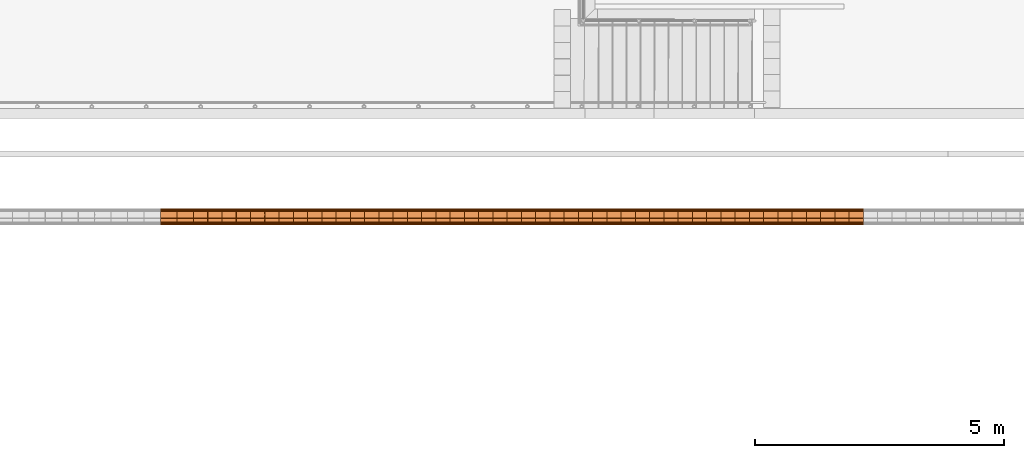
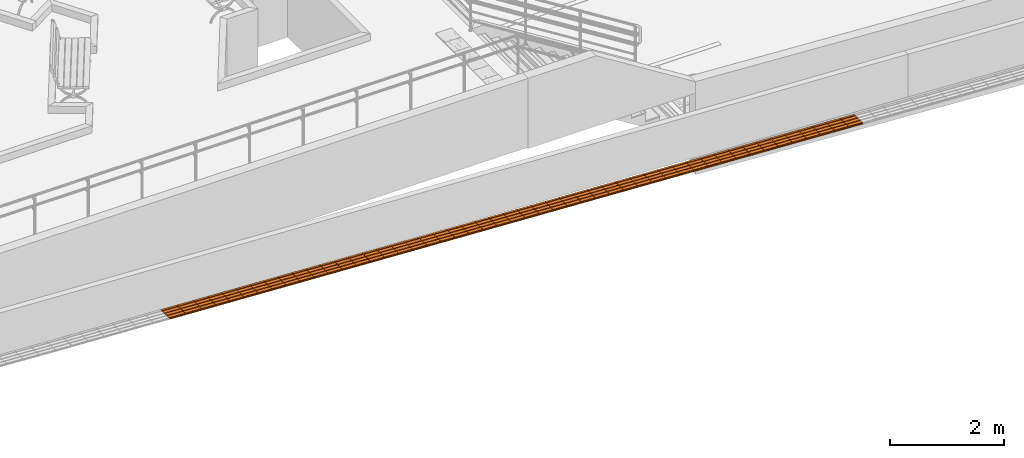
# One storey, part 186 of 237: 49 proxies.
"""IFC2X3 building model written with IfcOpenShell, lengths in millimetres."""

from ifc_helpers import new_model, entity, si_unit, converted_unit, derived_unit, money_unit, direction, frame, origin_with_axes, place, context, subcontext, project, spatial, open_shell, surface_model, source, transform, mapped, type_object, element, save


model = new_model("IFC2X3")

# Units and contexts
model_context = context("Model", 3, precision=0.01, world=origin_with_axes(), true_north=direction((0.0, 1.0)))
body_context = subcontext(model_context, "Body", "Model", "MODEL_VIEW")
ifc_project = project(units=[si_unit("LENGTHUNIT", "METRE", prefix="MILLI"), si_unit("AREAUNIT", "SQUARE_METRE"), si_unit("VOLUMEUNIT", "CUBIC_METRE"), converted_unit("PLANEANGLEUNIT", "DEGREE", entity("IfcPlaneAngleMeasure", 0.0174532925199), si_unit("PLANEANGLEUNIT", "RADIAN"), dimensions=[0, 0, 0, 0, 0, 0, 0]), money_unit("USD"), converted_unit("TIMEUNIT", "Year", entity("IfcTimeMeasure", 31556926.0), si_unit("TIMEUNIT", "SECOND"), dimensions=[0, 0, 1, 0, 0, 0, 0]), si_unit("MASSUNIT", "GRAM", prefix="KILO"), si_unit("THERMODYNAMICTEMPERATUREUNIT", "DEGREE_CELSIUS"), si_unit("LUMINOUSINTENSITYUNIT", "LUMEN"), si_unit("ENERGYUNIT", "JOULE", prefix="MEGA"), derived_unit("THERMALCONDUCTANCEUNIT", [(si_unit("POWERUNIT", "WATT"), 1), (si_unit("LENGTHUNIT", "METRE"), -1), (si_unit("THERMODYNAMICTEMPERATUREUNIT", "KELVIN"), -1)]), derived_unit("SPECIFICHEATCAPACITYUNIT", [(si_unit("ENERGYUNIT", "JOULE"), 1), (si_unit("MASSUNIT", "GRAM", prefix="KILO"), -1), (si_unit("THERMODYNAMICTEMPERATUREUNIT", "KELVIN"), -1)]), derived_unit("MASSDENSITYUNIT", [(si_unit("MASSUNIT", "GRAM", prefix="KILO"), 1), (si_unit("VOLUMEUNIT", "CUBIC_METRE"), -1)])], contexts=[model_context])

# Site, building, storey
site_placement = place(None, origin_with_axes())
site = spatial("IfcSite", under=ifc_project, at=site_placement, Name="Local", CompositionType="ELEMENT")
building_placement = place(site_placement, origin_with_axes())
building = spatial("IfcBuilding", under=site, at=building_placement, Name="Construção", CompositionType="ELEMENT")
storey_placement = place(building_placement, origin_with_axes())
storey = spatial("IfcBuildingStorey", under=building, at=storey_placement, Name="Pavimento Térreo", CompositionType="ELEMENT", Elevation=0.0)

# Proxies
building_element_proxy_type = type_object("IfcBuildingElementProxyType", Name="Piso Direcional 27", PredefinedType="NOTDEFINED")
shared_shape_1 = source(origin_with_axes(), body_context, "Body", "SurfaceModel", [
    surface_model("IfcShellBasedSurfaceModel", [(-0.210134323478, -47.258225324, 4.02303628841), (285.108160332, -47.258225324, 18.9260007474), (284.760415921, -41.665004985, 25.5835917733), (-0.557878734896, -41.665004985, 10.6806273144)], [open_shell([[[0, 1, 2, 3]]])]),
    surface_model("IfcShellBasedSurfaceModel", [(285.803649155, -153.529411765, 5.61081869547), (285.803649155, 176.470588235, 5.61081869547), (285.108160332, 176.470588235, 18.9260007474), (285.108160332, 154.097706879, 18.9260007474), (284.760415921, 148.50448654, 25.5835917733), (284.760415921, 126.131605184, 25.5835917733), (285.108160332, 120.538384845, 18.9260007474), (285.108160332, 70.1994017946, 18.9260007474), (284.760415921, 64.6061814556, 25.5835917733), (284.760415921, 42.2333000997, 25.5835917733), (285.108160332, 36.6400797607, 18.9260007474), (285.108160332, -13.6989032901, 18.9260007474), (284.760415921, -19.2921236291, 25.5835917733), (284.760415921, -41.665004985, 25.5835917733), (285.108160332, -47.258225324, 18.9260007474), (285.108160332, -97.5972083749, 18.9260007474), (284.760415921, -103.190428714, 25.5835917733), (284.760415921, -125.56331007, 25.5835917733), (285.108160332, -131.156530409, 18.9260007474), (285.108160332, -153.529411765, 18.9260007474)], [open_shell([[[0, 1, 2, 3, 4, 5, 6, 7, 8, 9, 10, 11, 12, 13, 14, 15, 16, 17, 18, 19]]])]),
    surface_model("IfcShellBasedSurfaceModel", [(-0.557878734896, -19.2921236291, 10.6806273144), (284.760415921, -19.2921236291, 25.5835917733), (285.108160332, -13.6989032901, 18.9260007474), (-0.210134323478, -13.6989032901, 4.02303628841)], [open_shell([[[0, 1, 2, 3]]])]),
    surface_model("IfcShellBasedSurfaceModel", [(-0.557878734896, -103.190428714, 10.6806273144), (284.760415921, -103.190428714, 25.5835917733), (285.108160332, -97.5972083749, 18.9260007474), (-0.210134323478, -97.5972083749, 4.02303628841)], [open_shell([[[0, 1, 2, 3]]])]),
    surface_model("IfcShellBasedSurfaceModel", [(-0.557878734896, 64.6061814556, 10.6806273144), (284.760415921, 64.6061814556, 25.5835917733), (285.108160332, 70.1994017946, 18.9260007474), (-0.210134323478, 70.1994017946, 4.02303628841)], [open_shell([[[0, 1, 2, 3]]])]),
    surface_model("IfcShellBasedSurfaceModel", [(-0.210134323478, 36.6400797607, 4.02303628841), (285.108160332, 36.6400797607, 18.9260007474), (284.760415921, 42.2333000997, 25.5835917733), (-0.557878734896, 42.2333000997, 10.6806273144)], [open_shell([[[0, 1, 2, 3]]])]),
    surface_model("IfcShellBasedSurfaceModel", [(-0.210134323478, -131.156530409, 4.02303628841), (285.108160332, -131.156530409, 18.9260007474), (284.760415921, -125.56331007, 25.5835917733), (-0.557878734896, -125.56331007, 10.6806273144)], [open_shell([[[0, 1, 2, 3]]])]),
    surface_model("IfcShellBasedSurfaceModel", [(-0.210134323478, 176.470588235, 4.02303628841), (-0.210134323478, 154.097706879, 4.02303628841), (285.108160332, 154.097706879, 18.9260007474), (285.108160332, 176.470588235, 18.9260007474)], [open_shell([[[0, 1, 2, 3]]])]),
    surface_model("IfcShellBasedSurfaceModel", [(-0.210134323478, 120.538384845, 4.02303628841), (285.108160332, 120.538384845, 18.9260007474), (284.760415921, 126.131605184, 25.5835917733), (-0.557878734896, 126.131605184, 10.6806273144)], [open_shell([[[0, 1, 2, 3]]])]),
    surface_model("IfcShellBasedSurfaceModel", [(-0.557878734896, 148.50448654, 10.6806273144), (284.760415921, 148.50448654, 25.5835917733), (285.108160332, 154.097706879, 18.9260007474), (-0.210134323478, 154.097706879, 4.02303628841)], [open_shell([[[0, 1, 2, 3]]])]),
    surface_model("IfcShellBasedSurfaceModel", [(-0.210134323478, 36.6400797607, 4.02303628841), (-0.210134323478, -13.6989032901, 4.02303628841), (285.108160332, -13.6989032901, 18.9260007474), (285.108160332, 36.6400797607, 18.9260007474)], [open_shell([[[0, 1, 2, 3]]])]),
    surface_model("IfcShellBasedSurfaceModel", [(-0.210134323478, 120.538384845, 4.02303628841), (-0.210134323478, 70.1994017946, 4.02303628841), (285.108160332, 70.1994017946, 18.9260007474), (285.108160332, 120.538384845, 18.9260007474)], [open_shell([[[0, 1, 2, 3]]])]),
    surface_model("IfcShellBasedSurfaceModel", [(-0.557878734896, 148.50448654, 10.6806273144), (-0.557878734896, 126.131605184, 10.6806273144), (284.760415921, 126.131605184, 25.5835917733), (284.760415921, 148.50448654, 25.5835917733)], [open_shell([[[0, 1, 2, 3]]])]),
    surface_model("IfcShellBasedSurfaceModel", [(-0.210134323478, 120.538384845, 4.02303628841), (-0.557878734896, 126.131605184, 10.6806273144), (-0.557878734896, 148.50448654, 10.6806273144), (-0.210134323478, 154.097706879, 4.02303628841), (-0.210134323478, 176.470588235, 4.02303628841), (0.48535449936, 176.470588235, -9.29214576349), (0.48535449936, -153.529411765, -9.29214576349), (-0.210134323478, -153.529411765, 4.02303628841), (-0.210134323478, -131.156530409, 4.02303628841), (-0.557878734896, -125.56331007, 10.6806273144), (-0.557878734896, -103.190428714, 10.6806273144), (-0.210134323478, -97.5972083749, 4.02303628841), (-0.210134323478, -47.258225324, 4.02303628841), (-0.557878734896, -41.665004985, 10.6806273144), (-0.557878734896, -19.2921236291, 10.6806273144), (-0.210134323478, -13.6989032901, 4.02303628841), (-0.210134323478, 36.6400797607, 4.02303628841), (-0.557878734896, 42.2333000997, 10.6806273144), (-0.557878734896, 64.6061814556, 10.6806273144), (-0.210134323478, 70.1994017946, 4.02303628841)], [open_shell([[[0, 1, 2, 3, 4, 5, 6, 7, 8, 9, 10, 11, 12, 13, 14, 15, 16, 17, 18, 19]]])]),
    surface_model("IfcShellBasedSurfaceModel", [(284.760415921, -41.665004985, 25.5835917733), (284.760415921, -19.2921236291, 25.5835917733), (-0.557878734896, -19.2921236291, 10.6806273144), (-0.557878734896, -41.665004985, 10.6806273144)], [open_shell([[[0, 1, 2, 3]]])]),
    surface_model("IfcShellBasedSurfaceModel", [(-0.210134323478, -47.258225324, 4.02303628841), (-0.210134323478, -97.5972083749, 4.02303628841), (285.108160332, -97.5972083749, 18.9260007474), (285.108160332, -47.258225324, 18.9260007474)], [open_shell([[[0, 1, 2, 3]]])]),
    surface_model("IfcShellBasedSurfaceModel", [(284.760415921, 42.2333000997, 25.5835917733), (284.760415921, 64.6061814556, 25.5835917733), (-0.557878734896, 64.6061814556, 10.6806273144), (-0.557878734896, 42.2333000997, 10.6806273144)], [open_shell([[[0, 1, 2, 3]]])]),
    surface_model("IfcShellBasedSurfaceModel", [(284.760415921, -125.56331007, 25.5835917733), (284.760415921, -103.190428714, 25.5835917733), (-0.557878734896, -103.190428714, 10.6806273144), (-0.557878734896, -125.56331007, 10.6806273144)], [open_shell([[[0, 1, 2, 3]]])]),
    surface_model("IfcShellBasedSurfaceModel", [(285.803649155, 176.470588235, 5.61081869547), (0.48535449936, 176.470588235, -9.29214576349), (-0.210134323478, 176.470588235, 4.02303628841), (285.108160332, 176.470588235, 18.9260007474)], [open_shell([[[0, 1, 2, 3]]])]),
    surface_model("IfcShellBasedSurfaceModel", [(285.803649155, -153.529411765, 5.61081869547), (0.48535449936, -153.529411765, -9.29214576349), (0.48535449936, 176.470588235, -9.29214576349), (285.803649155, 176.470588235, 5.61081869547)], [open_shell([[[0, 1, 2, 3]]])]),
    surface_model("IfcShellBasedSurfaceModel", [(285.108160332, -153.529411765, 18.9260007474), (285.108160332, -131.156530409, 18.9260007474), (-0.210134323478, -131.156530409, 4.02303628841), (-0.210134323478, -153.529411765, 4.02303628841)], [open_shell([[[0, 1, 2, 3]]])]),
    surface_model("IfcShellBasedSurfaceModel", [(0.48535449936, -153.529411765, -9.29214576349), (285.803649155, -153.529411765, 5.61081869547), (285.108160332, -153.529411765, 18.9260007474), (-0.210134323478, -153.529411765, 4.02303628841)], [open_shell([[[0, 1, 2, 3]]])]),
])
for number, where, z_axis, x_axis, name in (
    (1, (92691.1017229, 10834.0941893, -5785.71380925), (0.0, 0.0, 1.0), (-1.0, 0.0, 0.0), "Objeto-0055"),
    (2, (94407.7134998, 10834.0941893, -5875.37719495), (0.0, 0.0, 1.0), (-1.0, 0.0, 0.0), "Objeto-0055"),
    (3, (93549.4076113, 10834.0941893, -5830.5455021), (0.0, 0.0, 1.0), (-1.0, 0.0, 0.0), "Objeto-0055"),
    (4, (95837.4396458, 10834.0941893, -5950.05574988), (0.0, 0.0, 1.0), (-1.0, 0.0, 0.0), "Objeto-0055"),
    (5, (95552.1213511, 10834.0941893, -5935.15278542), (0.0, 0.0, 1.0), (-1.0, 0.0, 0.0), "Objeto-0055"),
    (6, (98126.2553484, 10834.0941893, -6069.60693082), (0.0, 0.0, 1.0), (-1.0, 0.0, 0.0), "Objeto-0055"),
    (7, (97267.9494599, 10834.0941893, -6024.77523797), (0.0, 0.0, 1.0), (-1.0, 0.0, 0.0), "Objeto-0055"),
    (8, (96981.8474971, 10834.0941893, -6009.83134035), (0.0, 0.0, 1.0), (-1.0, 0.0, 0.0), "Objeto-0055"),
    (9, (102130.115492, 10834.0941893, -6278.73963114), (0.0, 0.0, 1.0), (-1.0, 0.0, 0.0), "Objeto-0055"),
    (10, (94693.8154626, 10834.0941893, -5890.32109257), (0.0, 0.0, 1.0), (-1.0, 0.0, 0.0), "Objeto-0055"),
    (11, (94979.9174255, 10834.0941893, -5905.26499019), (0.0, 0.0, 1.0), (-1.0, 0.0, 0.0), "Objeto-0055"),
    (12, (94121.611537, 10834.0941893, -5860.43329734), (0.0, 0.0, 1.0), (-1.0, 0.0, 0.0), "Objeto-0055"),
    (13, (93835.5095742, 10834.0941893, -5845.48939972), (0.0, 0.0, 1.0), (-1.0, 0.0, 0.0), "Objeto-0055"),
    (14, (97554.0514227, 10834.0941893, -6039.71913558), (0.0, 0.0, 1.0), (-1.0, 0.0, 0.0), "Objeto-0055"),
    (15, (97840.1533855, 10834.0941893, -6054.6630332), (0.0, 0.0, 1.0), (-1.0, 0.0, 0.0), "Objeto-0055"),
    (16, (98697.6756058, 10834.0941893, -6099.45379289), (0.0, 0.0, 1.0), (-1.0, 0.0, 0.0), "Objeto-0055"),
    (17, (96123.5416086, 10834.0941893, -5964.9996475), (0.0, 0.0, 1.0), (-1.0, 0.0, 0.0), "Objeto-0055"),
    (18, (96695.7455342, 10834.0941893, -5994.88744273), (0.0, 0.0, 1.0), (-1.0, 0.0, 0.0), "Objeto-0055"),
    (19, (105848.65734, 10834.0941893, -6472.969367), (0.0, 0.0, 1.0), (-1.0, 0.0, 0.0), "Objeto-0055"),
    (20, (96409.6435714, 10834.0941893, -5979.94354512), (0.0, 0.0, 1.0), (-1.0, 0.0, 0.0), "Objeto-0055"),
    (21, (101844.013529, 10834.0941893, -6263.79573352), (0.0, 0.0, 1.0), (-1.0, 0.0, 0.0), "Objeto-0055"),
    (22, (101557.911566, 10834.0941893, -6248.85183591), (0.0, 0.0, 1.0), (-1.0, 0.0, 0.0), "Objeto-0055"),
    (23, (101272.593271, 10834.0941893, -6233.94887145), (0.0, 0.0, 1.0), (-1.0, 0.0, 0.0), "Objeto-0055"),
    (24, (100986.491308, 10834.0941893, -6219.00497383), (0.0, 0.0, 1.0), (-1.0, 0.0, 0.0), "Objeto-0055"),
    (25, (100700.389346, 10834.0941893, -6204.06107621), (0.0, 0.0, 1.0), (-1.0, 0.0, 0.0), "Objeto-0055"),
    (26, (100414.287383, 10834.0941893, -6189.1171786), (0.0, 0.0, 1.0), (-1.0, 0.0, 0.0), "Objeto-0055"),
    (27, (100128.18542, 10834.0941893, -6174.17328098), (0.0, 0.0, 1.0), (-1.0, 0.0, 0.0), "Objeto-0055"),
    (28, (99842.0834571, 10834.0941893, -6159.22938336), (0.0, 0.0, 1.0), (-1.0, 0.0, 0.0), "Objeto-0055"),
    (29, (95266.0193883, 10834.0941893, -5920.20888781), (0.0, 0.0, 1.0), (-1.0, 0.0, 0.0), "Objeto-0055"),
    (30, (99555.9814943, 10834.0941893, -6144.28548575), (0.0, 0.0, 1.0), (-1.0, 0.0, 0.0), "Objeto-0055"),
    (31, (99269.8795315, 10834.0941893, -6129.34158813), (0.0, 0.0, 1.0), (-1.0, 0.0, 0.0), "Objeto-0055"),
    (32, (98983.7775687, 10834.0941893, -6114.39769051), (0.0, 0.0, 1.0), (-1.0, 0.0, 0.0), "Objeto-0055"),
    (33, (98412.3573112, 10834.0941893, -6084.55082844), (0.0, 0.0, 1.0), (-1.0, 0.0, 0.0), "Objeto-0055"),
    (34, (105562.555377, 10834.0941893, -6458.02546939), (0.0, 0.0, 1.0), (-1.0, 0.0, 0.0), "Objeto-0055"),
    (35, (105276.453414, 10834.0941893, -6443.08157177), (0.0, 0.0, 1.0), (-1.0, 0.0, 0.0), "Objeto-0055"),
    (36, (104990.351452, 10834.0941893, -6428.13767415), (0.0, 0.0, 1.0), (-1.0, 0.0, 0.0), "Objeto-0055"),
    (37, (104704.249489, 10834.0941893, -6413.19377654), (0.0, 0.0, 1.0), (-1.0, 0.0, 0.0), "Objeto-0055"),
    (38, (104418.147526, 10834.0941893, -6398.24987892), (0.0, 0.0, 1.0), (-1.0, 0.0, 0.0), "Objeto-0055"),
    (39, (104132.829231, 10834.0941893, -6383.34691446), (0.0, 0.0, 1.0), (-1.0, 0.0, 0.0), "Objeto-0055"),
    (40, (103846.727269, 10834.0941893, -6368.40301684), (0.0, 0.0, 1.0), (-1.0, 0.0, 0.0), "Objeto-0055"),
    (41, (103560.625306, 10834.0941893, -6353.45911923), (0.0, 0.0, 1.0), (-1.0, 0.0, 0.0), "Objeto-0055"),
    (42, (102702.319417, 10834.0941893, -6308.62742638), (0.0, 0.0, 1.0), (-1.0, 0.0, 0.0), "Objeto-0055"),
    (43, (102416.217454, 10834.0941893, -6293.68352876), (0.0, 0.0, 1.0), (-1.0, 0.0, 0.0), "Objeto-0055"),
    (44, (93263.3056485, 10834.0941893, -5815.60160449), (0.0, 0.0, 1.0), (-1.0, 0.0, 0.0), "Objeto-0055"),
    (45, (92977.2036857, 10834.0941893, -5800.65770687), (0.0, 0.0, 1.0), (-1.0, 0.0, 0.0), "Objeto-0055"),
    (46, (102988.42138, 10834.0941893, -6323.57132399), (0.0, 0.0, 1.0), (-1.0, 0.0, 0.0), "Objeto-0055"),
    (47, (103274.523343, 10834.0941893, -6338.51522161), (0.0, 0.0, 1.0), (-1.0, 0.0, 0.0), "Objeto-0055"),
):
    element("IfcBuildingElementProxy", number, at=place(storey_placement, frame(where, z_axis=z_axis, x_axis=x_axis)), inside=storey, type_object=building_element_proxy_type, Name=name, context=body_context, shape_type="MappedRepresentation", body=[
        mapped(shared_shape_1, transform((0.0, 0.0, 0.0))),
    ])
shared_shape_2 = source(origin_with_axes(), body_context, "Body", "SurfaceModel", [
    surface_model("IfcShellBasedSurfaceModel", [(-0.224878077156, -47.258225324, 4.02223908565), (329.260574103, -47.258225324, 22.4433357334), (328.888430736, -41.665004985, 29.0996074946), (-0.597021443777, -41.665004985, 10.6785108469)], [open_shell([[[0, 1, 2, 3]]])]),
    surface_model("IfcShellBasedSurfaceModel", [(330.004860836, -153.529411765, 9.13079221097), (330.004860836, 176.470588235, 9.13079221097), (329.260574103, 176.470588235, 22.4433357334), (329.260574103, 154.097706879, 22.4433357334), (328.888430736, 148.50448654, 29.0996074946), (328.888430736, 126.131605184, 29.0996074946), (329.260574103, 120.538384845, 22.4433357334), (329.260574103, 70.1994017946, 22.4433357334), (328.888430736, 64.6061814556, 29.0996074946), (328.888430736, 42.2333000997, 29.0996074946), (329.260574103, 36.6400797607, 22.4433357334), (329.260574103, -13.6989032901, 22.4433357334), (328.888430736, -19.2921236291, 29.0996074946), (328.888430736, -41.665004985, 29.0996074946), (329.260574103, -47.258225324, 22.4433357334), (329.260574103, -97.5972083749, 22.4433357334), (328.888430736, -103.190428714, 29.0996074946), (328.888430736, -125.56331007, 29.0996074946), (329.260574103, -131.156530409, 22.4433357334), (329.260574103, -153.529411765, 22.4433357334)], [open_shell([[[0, 1, 2, 3, 4, 5, 6, 7, 8, 9, 10, 11, 12, 13, 14, 15, 16, 17, 18, 19]]])]),
    surface_model("IfcShellBasedSurfaceModel", [(-0.597021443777, -19.2921236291, 10.6785108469), (328.888430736, -19.2921236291, 29.0996074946), (329.260574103, -13.6989032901, 22.4433357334), (-0.224878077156, -13.6989032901, 4.02223908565)], [open_shell([[[0, 1, 2, 3]]])]),
    surface_model("IfcShellBasedSurfaceModel", [(-0.597021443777, -103.190428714, 10.6785108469), (328.888430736, -103.190428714, 29.0996074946), (329.260574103, -97.5972083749, 22.4433357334), (-0.224878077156, -97.5972083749, 4.02223908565)], [open_shell([[[0, 1, 2, 3]]])]),
    surface_model("IfcShellBasedSurfaceModel", [(-0.597021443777, 64.6061814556, 10.6785108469), (328.888430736, 64.6061814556, 29.0996074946), (329.260574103, 70.1994017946, 22.4433357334), (-0.224878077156, 70.1994017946, 4.02223908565)], [open_shell([[[0, 1, 2, 3]]])]),
    surface_model("IfcShellBasedSurfaceModel", [(-0.224878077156, 36.6400797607, 4.02223908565), (329.260574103, 36.6400797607, 22.4433357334), (328.888430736, 42.2333000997, 29.0996074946), (-0.597021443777, 42.2333000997, 10.6785108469)], [open_shell([[[0, 1, 2, 3]]])]),
    surface_model("IfcShellBasedSurfaceModel", [(-0.224878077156, -131.156530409, 4.02223908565), (329.260574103, -131.156530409, 22.4433357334), (328.888430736, -125.56331007, 29.0996074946), (-0.597021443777, -125.56331007, 10.6785108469)], [open_shell([[[0, 1, 2, 3]]])]),
    surface_model("IfcShellBasedSurfaceModel", [(-0.224878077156, 176.470588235, 4.02223908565), (-0.224878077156, 154.097706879, 4.02223908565), (329.260574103, 154.097706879, 22.4433357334), (329.260574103, 176.470588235, 22.4433357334)], [open_shell([[[0, 1, 2, 3]]])]),
    surface_model("IfcShellBasedSurfaceModel", [(-0.224878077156, 120.538384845, 4.02223908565), (329.260574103, 120.538384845, 22.4433357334), (328.888430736, 126.131605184, 29.0996074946), (-0.597021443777, 126.131605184, 10.6785108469)], [open_shell([[[0, 1, 2, 3]]])]),
    surface_model("IfcShellBasedSurfaceModel", [(-0.597021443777, 148.50448654, 10.6785108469), (328.888430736, 148.50448654, 29.0996074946), (329.260574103, 154.097706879, 22.4433357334), (-0.224878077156, 154.097706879, 4.02223908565)], [open_shell([[[0, 1, 2, 3]]])]),
    surface_model("IfcShellBasedSurfaceModel", [(-0.224878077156, 36.6400797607, 4.02223908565), (-0.224878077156, -13.6989032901, 4.02223908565), (329.260574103, -13.6989032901, 22.4433357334), (329.260574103, 36.6400797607, 22.4433357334)], [open_shell([[[0, 1, 2, 3]]])]),
    surface_model("IfcShellBasedSurfaceModel", [(-0.224878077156, 120.538384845, 4.02223908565), (-0.224878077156, 70.1994017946, 4.02223908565), (329.260574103, 70.1994017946, 22.4433357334), (329.260574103, 120.538384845, 22.4433357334)], [open_shell([[[0, 1, 2, 3]]])]),
    surface_model("IfcShellBasedSurfaceModel", [(-0.597021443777, 148.50448654, 10.6785108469), (-0.597021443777, 126.131605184, 10.6785108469), (328.888430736, 126.131605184, 29.0996074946), (328.888430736, 148.50448654, 29.0996074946)], [open_shell([[[0, 1, 2, 3]]])]),
    surface_model("IfcShellBasedSurfaceModel", [(-0.224878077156, 120.538384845, 4.02223908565), (-0.597021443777, 126.131605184, 10.6785108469), (-0.597021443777, 148.50448654, 10.6785108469), (-0.224878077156, 154.097706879, 4.02223908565), (-0.224878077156, 176.470588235, 4.02223908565), (0.519408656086, 176.470588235, -9.29030443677), (0.519408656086, -153.529411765, -9.29030443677), (-0.224878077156, -153.529411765, 4.02223908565), (-0.224878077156, -131.156530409, 4.02223908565), (-0.597021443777, -125.56331007, 10.6785108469), (-0.597021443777, -103.190428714, 10.6785108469), (-0.224878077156, -97.5972083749, 4.02223908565), (-0.224878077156, -47.258225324, 4.02223908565), (-0.597021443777, -41.665004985, 10.6785108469), (-0.597021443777, -19.2921236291, 10.6785108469), (-0.224878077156, -13.6989032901, 4.02223908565), (-0.224878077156, 36.6400797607, 4.02223908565), (-0.597021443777, 42.2333000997, 10.6785108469), (-0.597021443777, 64.6061814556, 10.6785108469), (-0.224878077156, 70.1994017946, 4.02223908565)], [open_shell([[[0, 1, 2, 3, 4, 5, 6, 7, 8, 9, 10, 11, 12, 13, 14, 15, 16, 17, 18, 19]]])]),
    surface_model("IfcShellBasedSurfaceModel", [(328.888430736, -41.665004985, 29.0996074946), (328.888430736, -19.2921236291, 29.0996074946), (-0.597021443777, -19.2921236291, 10.6785108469), (-0.597021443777, -41.665004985, 10.6785108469)], [open_shell([[[0, 1, 2, 3]]])]),
    surface_model("IfcShellBasedSurfaceModel", [(-0.224878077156, -47.258225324, 4.02223908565), (-0.224878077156, -97.5972083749, 4.02223908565), (329.260574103, -97.5972083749, 22.4433357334), (329.260574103, -47.258225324, 22.4433357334)], [open_shell([[[0, 1, 2, 3]]])]),
    surface_model("IfcShellBasedSurfaceModel", [(328.888430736, 42.2333000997, 29.0996074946), (328.888430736, 64.6061814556, 29.0996074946), (-0.597021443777, 64.6061814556, 10.6785108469), (-0.597021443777, 42.2333000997, 10.6785108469)], [open_shell([[[0, 1, 2, 3]]])]),
    surface_model("IfcShellBasedSurfaceModel", [(328.888430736, -125.56331007, 29.0996074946), (328.888430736, -103.190428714, 29.0996074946), (-0.597021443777, -103.190428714, 10.6785108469), (-0.597021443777, -125.56331007, 10.6785108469)], [open_shell([[[0, 1, 2, 3]]])]),
    surface_model("IfcShellBasedSurfaceModel", [(330.004860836, 176.470588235, 9.13079221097), (0.519408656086, 176.470588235, -9.29030443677), (-0.224878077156, 176.470588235, 4.02223908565), (329.260574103, 176.470588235, 22.4433357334)], [open_shell([[[0, 1, 2, 3]]])]),
    surface_model("IfcShellBasedSurfaceModel", [(330.004860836, -153.529411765, 9.13079221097), (0.519408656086, -153.529411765, -9.29030443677), (0.519408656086, 176.470588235, -9.29030443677), (330.004860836, 176.470588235, 9.13079221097)], [open_shell([[[0, 1, 2, 3]]])]),
    surface_model("IfcShellBasedSurfaceModel", [(329.260574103, -153.529411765, 22.4433357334), (329.260574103, -131.156530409, 22.4433357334), (-0.224878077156, -131.156530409, 4.02223908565), (-0.224878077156, -153.529411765, 4.02223908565)], [open_shell([[[0, 1, 2, 3]]])]),
    surface_model("IfcShellBasedSurfaceModel", [(0.519408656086, -153.529411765, -9.29030443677), (330.004860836, -153.529411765, 9.13079221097), (329.260574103, -153.529411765, 22.4433357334), (-0.224878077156, -153.529411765, 4.02223908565)], [open_shell([[[0, 1, 2, 3]]])]),
])
for number, where, z_axis, x_axis, name in (
    (48, (92075.3944818, 10834.0941893, -5754.1827529), (0.0, 0.0, 1.0), (-1.0, 0.0, 0.0), "Objeto-0055"),
    (49, (92405.3944818, 10834.0941893, -5771.45552042), (0.0, 0.0, 1.0), (-1.0, 0.0, 0.0), "Objeto-0055"),
):
    element("IfcBuildingElementProxy", number, at=place(storey_placement, frame(where, z_axis=z_axis, x_axis=x_axis)), inside=storey, type_object=building_element_proxy_type, Name=name, context=body_context, shape_type="MappedRepresentation", body=[
        mapped(shared_shape_2, transform((0.0, 0.0, 0.0))),
    ])

save(model, "model.ifc")
